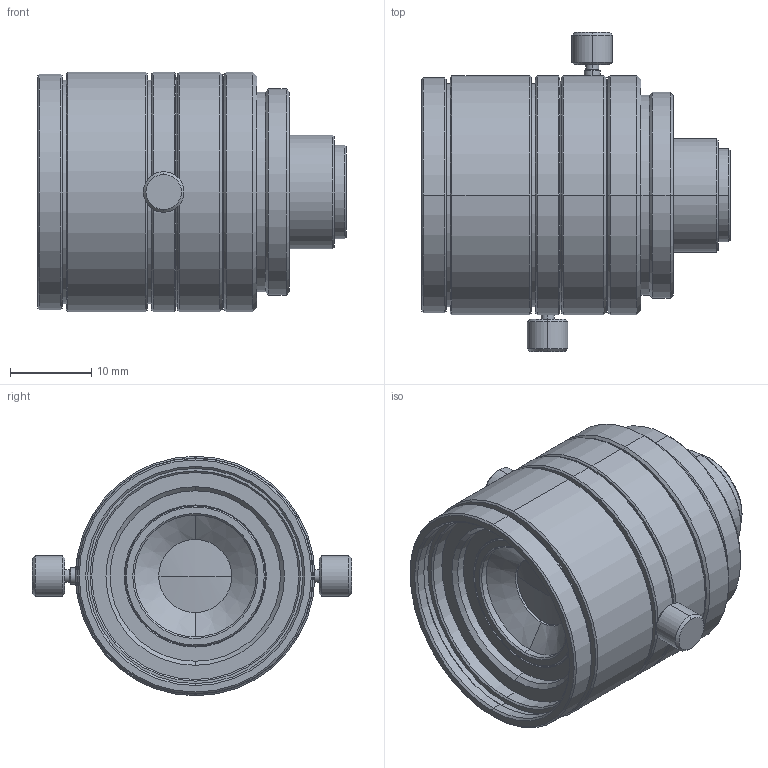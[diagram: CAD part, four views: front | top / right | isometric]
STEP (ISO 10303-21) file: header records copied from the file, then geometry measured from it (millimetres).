
FILE_DESCRIPTION (( 'STEP AP203' ), '1' );
FILE_NAME ('VS-LDA10.STEP', '2016-11-08T06:34:39', ( '' ), ( '' ), 'SwSTEP 2.0', 'SolidWorks 2016', '' );
FILE_SCHEMA (( 'CONFIG_CONTROL_DESIGN' ));
Length unit declared in the file: millimetre
Products named in the file (1): VS-LDA10
Bounding box: 37.99 x 39.3 x 29.5 mm (x, y, z)
Volume: 17409.5 mm3; surface area: 6732.3 mm2
Topology: 1 solids, 1 shells, 166 faces, 332 edges, 194 vertices
Faces by surface type: cone 81, cylinder 56, plane 27, sphere 2
Entity records: 4420 total; most frequent: DIRECTION 853, CARTESIAN_POINT 754, ORIENTED_EDGE 664, AXIS2_PLACEMENT_3D 359, EDGE_CURVE 332, VERTEX_POINT 194, EDGE_LOOP 192, CIRCLE 192
